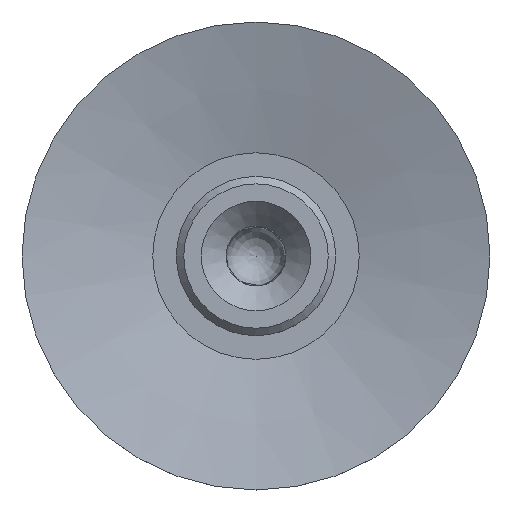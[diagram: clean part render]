
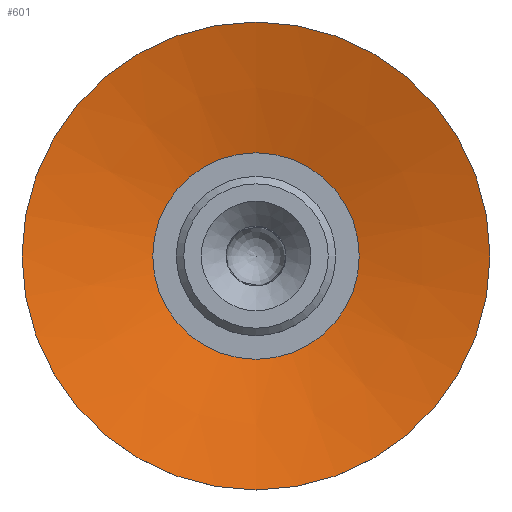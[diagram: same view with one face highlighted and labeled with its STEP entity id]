
A CAD part, top view. The second image highlights one B-rep face of the part: STEP entity #601.
In plain terms, the highlighted conical face has half-angle 75 degrees and reference radius 47 mm.
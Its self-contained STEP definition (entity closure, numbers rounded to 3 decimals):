
#601=ADVANCED_FACE('',(#1322,#1323),#1324,.F.);
#1322=FACE_BOUND('',#2780,.T.);
#1323=FACE_OUTER_BOUND('',#2781,.T.);
#1324=CONICAL_SURFACE('',#2782,47.,1.309);
#2780=EDGE_LOOP('',(#4311));
#2781=EDGE_LOOP('',(#4312));
#2782=AXIS2_PLACEMENT_3D('',#4313,#4314,#4315);
#4311=ORIENTED_EDGE('',*,*,#5095,.T.);
#4312=ORIENTED_EDGE('',*,*,#5093,.F.);
#4313=CARTESIAN_POINT('',(0.0,0.0,3.437));
#4314=DIRECTION('',(-0.0,0.,1.0));
#4315=DIRECTION('',(0.0,-1.0,0.));
#5093=EDGE_CURVE('',#5860,#5860,#5861,.T.);
#5095=EDGE_CURVE('',#5863,#5863,#5864,.T.);
#5860=VERTEX_POINT('',#7030);
#5861=CIRCLE('',#7031,47.);
#5863=VERTEX_POINT('',#7033);
#5864=CIRCLE('',#7034,20.737);
#7030=CARTESIAN_POINT('',(0.0,47.,3.437));
#7031=AXIS2_PLACEMENT_3D('',#7673,#7674,#7675);
#7033=CARTESIAN_POINT('',(0.0,20.737,-3.6));
#7034=AXIS2_PLACEMENT_3D('',#7676,#7677,#7678);
#7673=CARTESIAN_POINT('',(0.0,0.0,3.437));
#7674=DIRECTION('',(-0.0,0.,-1.0));
#7675=DIRECTION('',(0.0,1.0,0.));
#7676=CARTESIAN_POINT('',(0.0,0.0,-3.6));
#7677=DIRECTION('',(-0.0,0.,-1.0));
#7678=DIRECTION('',(0.0,1.0,0.));
